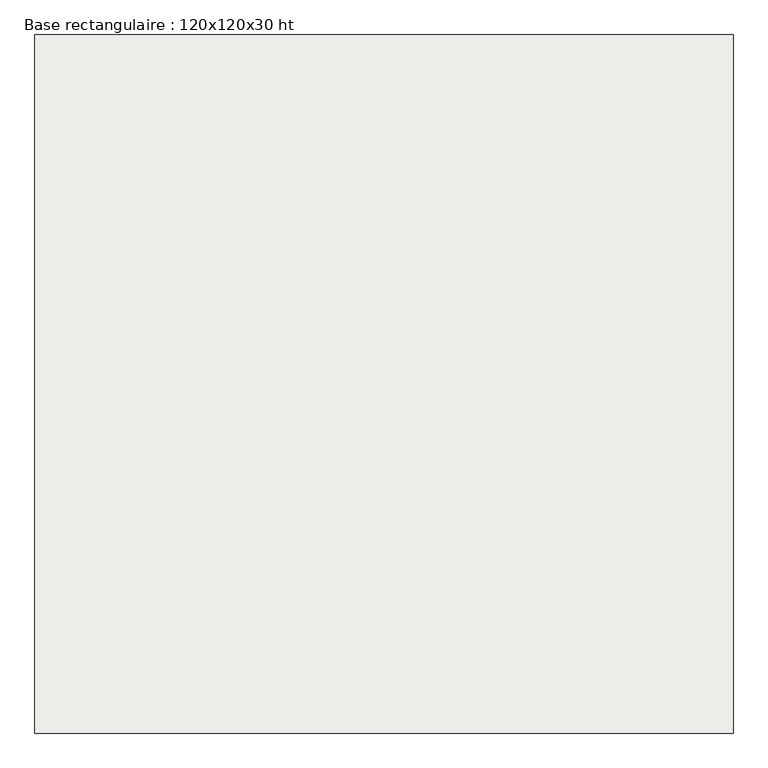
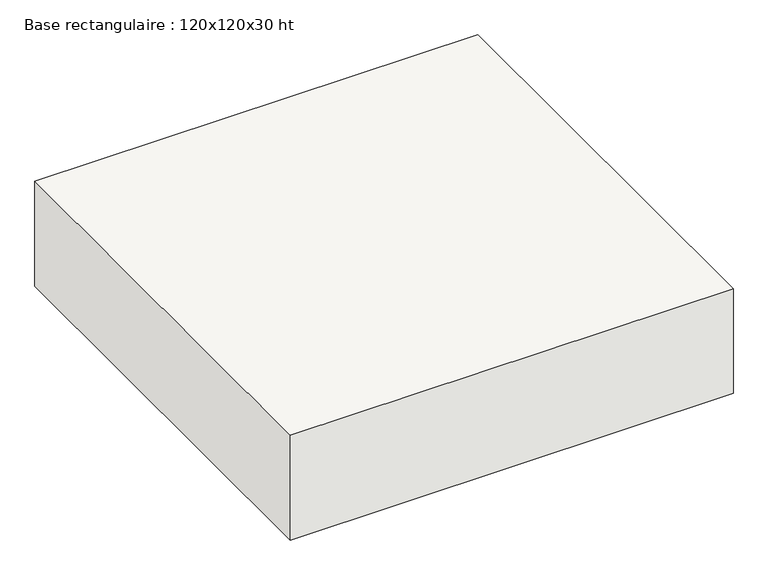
"""IFC4 building model written with IfcOpenShell, lengths in millimetres: slab geometry, Base rectangulaire : 120x120x30 ht."""

from ifc_helpers import new_model, si_unit, frame, origin, place, context, project, spatial, polyline, outline, extrude, source, transform, mapped, element, save


def base_rectangulaire_120x120x30_ht_74231e7a(model_context):
    return source(origin(), model_context, "Body", "SweptSolid", [
        extrude(outline(polyline([(600.0, 600.0), (600.0, -600.0), (-600.0, -600.0), (-600.0, 600.0), (600.0, 600.0)])), frame((0.0, 0.0, -300.0), z_axis=(0.0, 0.0, 1.0), x_axis=(1.0, 0.0, 0.0)), (0.0, 0.0, 1.0), 300.0),
        extrude(outline(polyline([(600.0, 600.0), (600.0, -600.0), (-600.0, -600.0), (-600.0, 600.0), (600.0, 600.0)])), frame((0.0, 0.0, -300.0), z_axis=(0.0, 0.0, 1.0), x_axis=(1.0, 0.0, 0.0)), (0.0, 0.0, 1.0), 300.0),
    ])


if __name__ == "__main__":
    model = new_model("IFC4")
    model_context = context("Model", 3, world=origin())
    ifc_project = project(units=[si_unit("LENGTHUNIT", "METRE", prefix="MILLI")], contexts=[model_context])
    site = spatial("IfcSite", under=ifc_project)
    building = spatial("IfcBuilding", under=site)
    placement = place(None, origin())
    base_rectangulaire_120x120x30_ht_shape = base_rectangulaire_120x120x30_ht_74231e7a(model_context)
    element("IfcSlab", 1, ObjectType="Base rectangulaire : 120x120x30 ht", at=placement, inside=building, context=model_context, shape_type="MappedRepresentation", body=[
        mapped(base_rectangulaire_120x120x30_ht_shape, transform((0.0, 0.0, 0.0), x_axis=(1.0, 0.0, 0.0), y_axis=(0.0, 1.0, 0.0), z_axis=(0.0, 0.0, 1.0))),
    ])
    save(model, "model.ifc")
